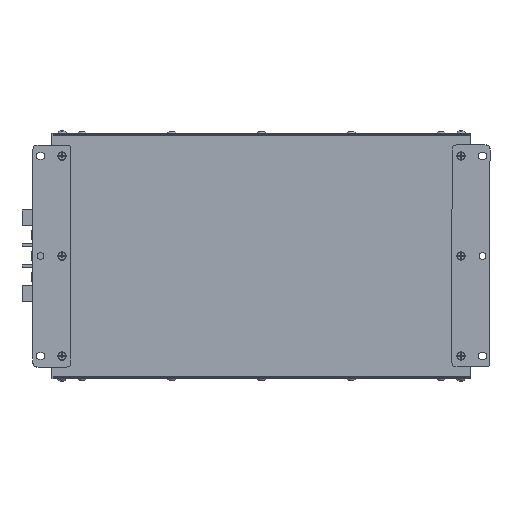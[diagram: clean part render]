
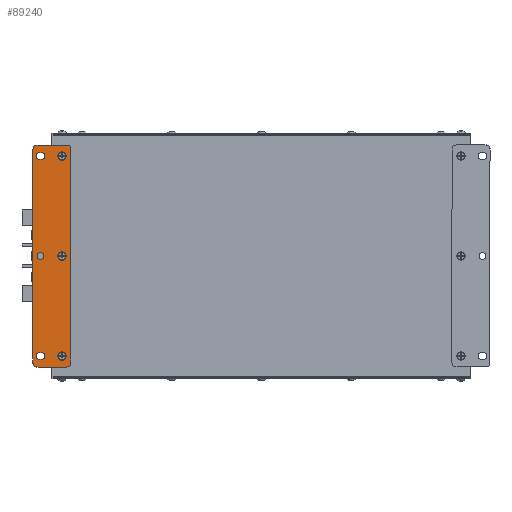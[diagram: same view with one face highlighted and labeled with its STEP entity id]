
A CAD part, front view. The second image highlights one B-rep face of the part: STEP entity #89240.
In plain terms, the highlighted planar face has unit normal (0, -1, 0).
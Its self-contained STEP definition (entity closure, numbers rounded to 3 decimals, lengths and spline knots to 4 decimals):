
#3528=FACE_BOUND('',#27057,.T.);
#3529=FACE_BOUND('',#27058,.T.);
#3530=FACE_BOUND('',#27059,.T.);
#3531=FACE_BOUND('',#27060,.T.);
#3532=FACE_BOUND('',#27061,.T.);
#3533=FACE_BOUND('',#27062,.T.);
#4349=PLANE('',#94042);
#6954=LINE('',#125186,#14170);
#6955=LINE('',#125190,#14171);
#6956=LINE('',#125194,#14172);
#6957=LINE('',#125198,#14173);
#6958=LINE('',#125204,#14174);
#6959=LINE('',#125208,#14175);
#6960=LINE('',#125212,#14176);
#6961=LINE('',#125216,#14177);
#14170=VECTOR('',#102484,0.3937);
#14171=VECTOR('',#102487,0.3937);
#14172=VECTOR('',#102490,0.3937);
#14173=VECTOR('',#102493,0.3937);
#14174=VECTOR('',#102498,0.3937);
#14175=VECTOR('',#102501,0.3937);
#14176=VECTOR('',#102504,0.3937);
#14177=VECTOR('',#102507,0.3937);
#22533=FACE_OUTER_BOUND('',#27056,.T.);
#27056=EDGE_LOOP('',(#59430,#59431,#59432,#59433,#59434,#59435,#59436,#59437));
#27057=EDGE_LOOP('',(#59438));
#27058=EDGE_LOOP('',(#59439,#59440,#59441,#59442));
#27059=EDGE_LOOP('',(#59443,#59444,#59445,#59446));
#27060=EDGE_LOOP('',(#59447));
#27061=EDGE_LOOP('',(#59448));
#27062=EDGE_LOOP('',(#59449));
#32382=CIRCLE('',#94041,0.1673);
#32383=CIRCLE('',#94043,0.1575);
#32384=CIRCLE('',#94044,0.1575);
#32385=CIRCLE('',#94045,0.1575);
#32386=CIRCLE('',#94046,0.1575);
#32387=CIRCLE('',#94047,0.1673);
#32388=CIRCLE('',#94048,0.1299);
#32389=CIRCLE('',#94049,0.1299);
#32390=CIRCLE('',#94050,0.1299);
#32391=CIRCLE('',#94051,0.1299);
#32392=CIRCLE('',#94052,0.1299);
#32393=CIRCLE('',#94053,0.1673);
#36006=VERTEX_POINT('',#125180);
#36007=VERTEX_POINT('',#125184);
#36008=VERTEX_POINT('',#125185);
#36009=VERTEX_POINT('',#125187);
#36010=VERTEX_POINT('',#125189);
#36011=VERTEX_POINT('',#125191);
#36012=VERTEX_POINT('',#125193);
#36013=VERTEX_POINT('',#125195);
#36014=VERTEX_POINT('',#125197);
#36015=VERTEX_POINT('',#125200);
#36016=VERTEX_POINT('',#125202);
#36017=VERTEX_POINT('',#125203);
#36018=VERTEX_POINT('',#125205);
#36019=VERTEX_POINT('',#125207);
#36020=VERTEX_POINT('',#125210);
#36021=VERTEX_POINT('',#125211);
#36022=VERTEX_POINT('',#125213);
#36023=VERTEX_POINT('',#125215);
#36024=VERTEX_POINT('',#125218);
#36025=VERTEX_POINT('',#125220);
#45505=EDGE_CURVE('',#36006,#36006,#32382,.T.);
#45507=EDGE_CURVE('',#36007,#36008,#6954,.T.);
#45508=EDGE_CURVE('',#36008,#36009,#32383,.T.);
#45509=EDGE_CURVE('',#36009,#36010,#6955,.T.);
#45510=EDGE_CURVE('',#36010,#36011,#32384,.T.);
#45511=EDGE_CURVE('',#36011,#36012,#6956,.T.);
#45512=EDGE_CURVE('',#36012,#36013,#32385,.T.);
#45513=EDGE_CURVE('',#36013,#36014,#6957,.T.);
#45514=EDGE_CURVE('',#36014,#36007,#32386,.T.);
#45515=EDGE_CURVE('',#36015,#36015,#32387,.T.);
#45516=EDGE_CURVE('',#36016,#36017,#6958,.T.);
#45517=EDGE_CURVE('',#36017,#36018,#32388,.T.);
#45518=EDGE_CURVE('',#36018,#36019,#6959,.T.);
#45519=EDGE_CURVE('',#36019,#36016,#32389,.T.);
#45520=EDGE_CURVE('',#36020,#36021,#6960,.T.);
#45521=EDGE_CURVE('',#36021,#36022,#32390,.T.);
#45522=EDGE_CURVE('',#36022,#36023,#6961,.T.);
#45523=EDGE_CURVE('',#36023,#36020,#32391,.T.);
#45524=EDGE_CURVE('',#36024,#36024,#32392,.T.);
#45525=EDGE_CURVE('',#36025,#36025,#32393,.T.);
#59430=ORIENTED_EDGE('',*,*,#45507,.T.);
#59431=ORIENTED_EDGE('',*,*,#45508,.T.);
#59432=ORIENTED_EDGE('',*,*,#45509,.T.);
#59433=ORIENTED_EDGE('',*,*,#45510,.T.);
#59434=ORIENTED_EDGE('',*,*,#45511,.T.);
#59435=ORIENTED_EDGE('',*,*,#45512,.T.);
#59436=ORIENTED_EDGE('',*,*,#45513,.T.);
#59437=ORIENTED_EDGE('',*,*,#45514,.T.);
#59438=ORIENTED_EDGE('',*,*,#45515,.F.);
#59439=ORIENTED_EDGE('',*,*,#45516,.T.);
#59440=ORIENTED_EDGE('',*,*,#45517,.T.);
#59441=ORIENTED_EDGE('',*,*,#45518,.T.);
#59442=ORIENTED_EDGE('',*,*,#45519,.T.);
#59443=ORIENTED_EDGE('',*,*,#45520,.T.);
#59444=ORIENTED_EDGE('',*,*,#45521,.T.);
#59445=ORIENTED_EDGE('',*,*,#45522,.T.);
#59446=ORIENTED_EDGE('',*,*,#45523,.T.);
#59447=ORIENTED_EDGE('',*,*,#45524,.T.);
#59448=ORIENTED_EDGE('',*,*,#45525,.F.);
#59449=ORIENTED_EDGE('',*,*,#45505,.F.);
#89240=ADVANCED_FACE('',(#22533,#3528,#3529,#3530,#3531,#3532,#3533),#4349,
 .T.);
#94041=AXIS2_PLACEMENT_3D('',#125181,#102479,#102480);
#94042=AXIS2_PLACEMENT_3D('',#125183,#102482,#102483);
#94043=AXIS2_PLACEMENT_3D('',#125188,#102485,#102486);
#94044=AXIS2_PLACEMENT_3D('',#125192,#102488,#102489);
#94045=AXIS2_PLACEMENT_3D('',#125196,#102491,#102492);
#94046=AXIS2_PLACEMENT_3D('',#125199,#102494,#102495);
#94047=AXIS2_PLACEMENT_3D('',#125201,#102496,#102497);
#94048=AXIS2_PLACEMENT_3D('',#125206,#102499,#102500);
#94049=AXIS2_PLACEMENT_3D('',#125209,#102502,#102503);
#94050=AXIS2_PLACEMENT_3D('',#125214,#102505,#102506);
#94051=AXIS2_PLACEMENT_3D('',#125217,#102508,#102509);
#94052=AXIS2_PLACEMENT_3D('',#125219,#102510,#102511);
#94053=AXIS2_PLACEMENT_3D('',#125221,#102512,#102513);
#102479=DIRECTION('center_axis',(0.,-1.,0.));
#102480=DIRECTION('ref_axis',(0.,0.,-1.));
#102482=DIRECTION('center_axis',(0.,-1.,0.));
#102483=DIRECTION('ref_axis',(-1.,0.,0.));
#102484=DIRECTION('',(-1.,0.,0.));
#102485=DIRECTION('center_axis',(0.,-1.,0.));
#102486=DIRECTION('ref_axis',(0.,0.,1.));
#102487=DIRECTION('',(0.,0.,-1.));
#102488=DIRECTION('center_axis',(0.,-1.,0.));
#102489=DIRECTION('ref_axis',(-1.,0.,0.));
#102490=DIRECTION('',(1.,0.,0.));
#102491=DIRECTION('center_axis',(0.,-1.,0.));
#102492=DIRECTION('ref_axis',(0.,0.,-1.));
#102493=DIRECTION('',(0.,0.,1.));
#102494=DIRECTION('center_axis',(0.,-1.,0.));
#102495=DIRECTION('ref_axis',(1.,0.,0.));
#102496=DIRECTION('center_axis',(0.,-1.,0.));
#102497=DIRECTION('ref_axis',(0.,0.,-1.));
#102498=DIRECTION('',(1.,0.,0.));
#102499=DIRECTION('center_axis',(0.,1.,0.));
#102500=DIRECTION('ref_axis',(0.,0.,1.));
#102501=DIRECTION('',(-1.,0.,0.));
#102502=DIRECTION('center_axis',(0.,1.,0.));
#102503=DIRECTION('ref_axis',(0.,0.,-1.));
#102504=DIRECTION('',(-1.,0.,0.));
#102505=DIRECTION('center_axis',(0.,1.,0.));
#102506=DIRECTION('ref_axis',(0.,0.,-1.));
#102507=DIRECTION('',(1.,0.,0.));
#102508=DIRECTION('center_axis',(0.,1.,0.));
#102509=DIRECTION('ref_axis',(0.,0.,1.));
#102510=DIRECTION('center_axis',(0.,1.,0.));
#102511=DIRECTION('ref_axis',(0.,0.,-1.));
#102512=DIRECTION('center_axis',(0.,-1.,0.));
#102513=DIRECTION('ref_axis',(0.,0.,-1.));
#125180=CARTESIAN_POINT('',(-15.9302,-0.1339,-9.4339));
#125181=CARTESIAN_POINT('Origin',(-15.9302,-0.1339,
-9.6012));
#125183=CARTESIAN_POINT('Origin',(-16.3239,-0.1339,
-5.6642));
#125184=CARTESIAN_POINT('',(-15.7333,-0.1339,-1.2941));
#125185=CARTESIAN_POINT('',(-16.9144,-0.1339,-1.2941));
#125186=CARTESIAN_POINT('',(-15.7333,-0.1339,-1.2941));
#125187=CARTESIAN_POINT('',(-17.0719,-0.1339,-1.4516));
#125188=CARTESIAN_POINT('Origin',(-16.9144,-0.1339,
-1.4516));
#125189=CARTESIAN_POINT('',(-17.0719,-0.1339,-9.8768));
#125190=CARTESIAN_POINT('',(-17.0719,-0.1339,-1.4516));
#125191=CARTESIAN_POINT('',(-16.9144,-0.1339,-10.0343));
#125192=CARTESIAN_POINT('Origin',(-16.9144,-0.1339,
-9.8768));
#125193=CARTESIAN_POINT('',(-15.7333,-0.1339,-10.0343));
#125194=CARTESIAN_POINT('',(-16.9144,-0.1339,-10.0343));
#125195=CARTESIAN_POINT('',(-15.5758,-0.1339,-9.8768));
#125196=CARTESIAN_POINT('Origin',(-15.7333,-0.1339,
-9.8768));
#125197=CARTESIAN_POINT('',(-15.5758,-0.1339,-1.4516));
#125198=CARTESIAN_POINT('',(-15.5758,-0.1339,-9.8768));
#125199=CARTESIAN_POINT('Origin',(-15.7333,-0.1339,
-1.4516));
#125200=CARTESIAN_POINT('',(-15.9302,-0.1339,-5.4969));
#125201=CARTESIAN_POINT('Origin',(-15.9302,-0.1339,
-5.6642));
#125202=CARTESIAN_POINT('',(-16.816,-0.1339,-9.4713));
#125203=CARTESIAN_POINT('',(-16.7372,-0.1339,-9.4713));
#125204=CARTESIAN_POINT('',(-16.816,-0.1339,-9.4713));
#125205=CARTESIAN_POINT('',(-16.7372,-0.1339,-9.7311));
#125206=CARTESIAN_POINT('Origin',(-16.7372,-0.1339,
-9.6012));
#125207=CARTESIAN_POINT('',(-16.816,-0.1339,-9.7311));
#125208=CARTESIAN_POINT('',(-16.7372,-0.1339,-9.7311));
#125209=CARTESIAN_POINT('Origin',(-16.816,-0.1339,
-9.6012));
#125210=CARTESIAN_POINT('',(-16.7372,-0.1339,-1.8571));
#125211=CARTESIAN_POINT('',(-16.816,-0.1339,-1.8571));
#125212=CARTESIAN_POINT('',(-16.7372,-0.1339,-1.8571));
#125213=CARTESIAN_POINT('',(-16.816,-0.1339,-1.5973));
#125214=CARTESIAN_POINT('Origin',(-16.816,-0.1339,
-1.7272));
#125215=CARTESIAN_POINT('',(-16.7372,-0.1339,-1.5973));
#125216=CARTESIAN_POINT('',(-16.816,-0.1339,-1.5973));
#125217=CARTESIAN_POINT('Origin',(-16.7372,-0.1339,
-1.7272));
#125218=CARTESIAN_POINT('',(-16.7766,-0.1339,-5.5343));
#125219=CARTESIAN_POINT('Origin',(-16.7766,-0.1339,-5.6642));
#125220=CARTESIAN_POINT('',(-15.9302,-0.1339,-1.5599));
#125221=CARTESIAN_POINT('Origin',(-15.9302,-0.1339,
-1.7272));
